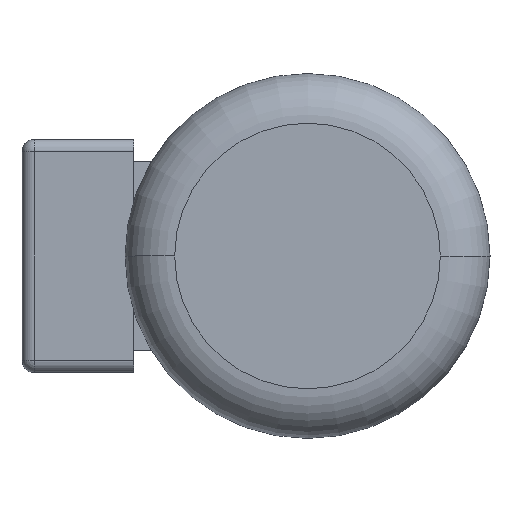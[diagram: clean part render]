
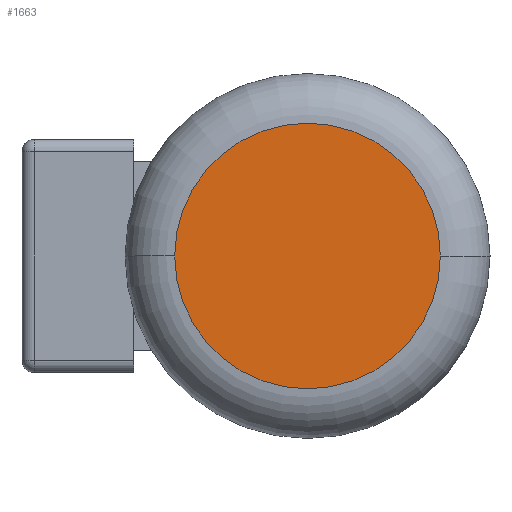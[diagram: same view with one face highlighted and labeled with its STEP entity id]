
A CAD part, left-side view. The second image highlights one B-rep face of the part: STEP entity #1663.
In plain terms, the highlighted planar face has unit normal (-1, 0, 0).
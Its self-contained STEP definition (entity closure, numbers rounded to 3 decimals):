
#542 = DIRECTION ( 'NONE',  ( 0., 1., 0. ) ) ;
#1663 = ADVANCED_FACE ( 'NONE', ( #11422 ), #9334, .T. ) ;
#1755 = EDGE_CURVE ( 'NONE', #12956, #9825, #11580, .T. ) ;
#2305 = DIRECTION ( 'NONE',  ( 0., 1., 0. ) ) ;
#2347 = CARTESIAN_POINT ( 'NONE',  ( -281.5, 93.5, 0. ) ) ;
#2721 = EDGE_LOOP ( 'NONE', ( #5642, #7156 ) ) ;
#3278 = CARTESIAN_POINT ( 'NONE',  ( -281.5, 40., 0. ) ) ;
#3436 = AXIS2_PLACEMENT_3D ( 'NONE', #5592, #6463, #10629 ) ;
#5282 = DIRECTION ( 'NONE',  ( -1., 0., 0. ) ) ;
#5592 = CARTESIAN_POINT ( 'NONE',  ( -281.5, 40., 0. ) ) ;
#5642 = ORIENTED_EDGE ( 'NONE', *, *, #1755, .T. ) ;
#6463 = DIRECTION ( 'NONE',  ( -1., 0., 0. ) ) ;
#6599 = CARTESIAN_POINT ( 'NONE',  ( -281.5, 40., 0. ) ) ;
#6728 = DIRECTION ( 'NONE',  ( -1., 0., 0. ) ) ;
#7152 = EDGE_CURVE ( 'NONE', #9825, #12956, #8480, .T. ) ;
#7156 = ORIENTED_EDGE ( 'NONE', *, *, #7152, .T. ) ;
#7856 = AXIS2_PLACEMENT_3D ( 'NONE', #3278, #5282, #2305 ) ;
#8480 = CIRCLE ( 'NONE', #9909, 53.5 ) ;
#9334 = PLANE ( 'NONE',  #7856 ) ;
#9825 = VERTEX_POINT ( 'NONE', #11826 ) ;
#9909 = AXIS2_PLACEMENT_3D ( 'NONE', #6599, #6728, #542 ) ;
#10629 = DIRECTION ( 'NONE',  ( 0., 1., 0. ) ) ;
#11422 = FACE_OUTER_BOUND ( 'NONE', #2721, .T. ) ;
#11580 = CIRCLE ( 'NONE', #3436, 53.5 ) ;
#11826 = CARTESIAN_POINT ( 'NONE',  ( -281.5, -13.5, 0. ) ) ;
#12956 = VERTEX_POINT ( 'NONE', #2347 ) ;
